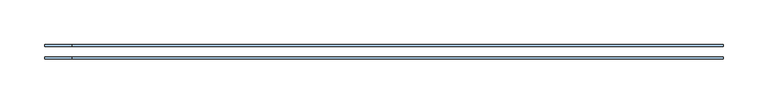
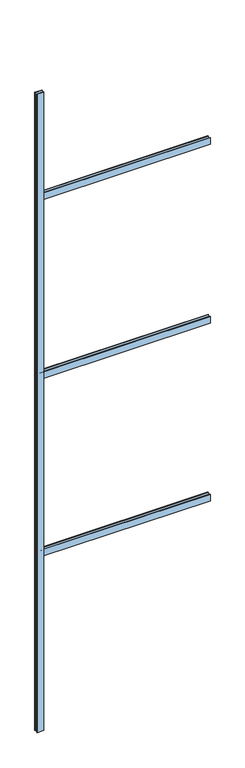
"""IFC4 building model written with IfcOpenShell, lengths in millimetres: window geometry, 32_IM_CF_verdeling_roedes : 32_IM_CF_verdeling_roedes_1x4."""

from ifc_helpers import new_model, si_unit, frame, origin, origin_with_axes, place, context, project, spatial, polyline, outline, extrude, source, transform, mapped, element, save


def window_64f03e5b(model_context):
    return source(origin(), model_context, "Body", "SweptSolid", [
        extrude(outline(polyline([(-356.0, -6.0), (-356.0, -8.0), (-386.0, -8.0), (-386.0, -6.0), (-356.0, -6.0)])), origin_with_axes(), (0.0, 0.0, 1.0), 2945.0),
        extrude(outline(polyline([(-386.0, 8.0), (-356.0, 8.0), (-356.0, 6.0), (-386.0, 6.0), (-386.0, 8.0)])), origin_with_axes(), (0.0, 0.0, 1.0), 2945.0),
        extrude(outline(polyline([(371.0, -8.0), (-371.0, -8.0), (-371.0, -6.0), (371.0, -6.0), (371.0, -8.0)])), frame((0.0, 0.0, 805.0), z_axis=(0.0, 0.0, 1.0), x_axis=(1.0, 0.0, 0.0)), (0.0, 0.0, 1.0), 30.0),
        extrude(outline(polyline([(371.0, 6.0), (-371.0, 6.0), (-371.0, 8.0), (371.0, 8.0), (371.0, 6.0)])), frame((0.0, 0.0, 805.0), z_axis=(0.0, 0.0, 1.0), x_axis=(1.0, 0.0, 0.0)), (0.0, 0.0, 1.0), 30.0),
        extrude(outline(polyline([(371.0, -8.0), (-371.0, -8.0), (-371.0, -6.0), (371.0, -6.0), (371.0, -8.0)])), frame((0.0, 0.0, 2450.0), z_axis=(0.0, 0.0, 1.0), x_axis=(1.0, 0.0, 0.0)), (0.0, 0.0, 1.0), 30.0),
        extrude(outline(polyline([(371.0, 6.0), (-371.0, 6.0), (-371.0, 8.0), (371.0, 8.0), (371.0, 6.0)])), frame((0.0, 0.0, 2450.0), z_axis=(0.0, 0.0, 1.0), x_axis=(1.0, 0.0, 0.0)), (0.0, 0.0, 1.0), 30.0),
        extrude(outline(polyline([(371.0, -8.0), (-371.0, -8.0), (-371.0, -6.0), (371.0, -6.0), (371.0, -8.0)])), frame((0.0, 0.0, 1625.0), z_axis=(0.0, 0.0, 1.0), x_axis=(1.0, 0.0, 0.0)), (0.0, 0.0, 1.0), 30.0),
        extrude(outline(polyline([(371.0, 6.0), (-371.0, 6.0), (-371.0, 8.0), (371.0, 8.0), (371.0, 6.0)])), frame((0.0, 0.0, 1625.0), z_axis=(0.0, 0.0, 1.0), x_axis=(1.0, 0.0, 0.0)), (0.0, 0.0, 1.0), 30.0),
    ])


if __name__ == "__main__":
    model = new_model("IFC4")
    model_context = context("Model", 3, world=origin())
    ifc_project = project(units=[si_unit("LENGTHUNIT", "METRE", prefix="MILLI")], contexts=[model_context])
    site = spatial("IfcSite", under=ifc_project)
    building = spatial("IfcBuilding", under=site)
    placement = place(None, origin())
    window_shape = window_64f03e5b(model_context)
    element("IfcWindow", 1, ObjectType="32_IM_CF_verdeling_roedes : 32_IM_CF_verdeling_roedes_1x4", at=placement, inside=building, context=model_context, shape_type="MappedRepresentation", body=[
        mapped(window_shape, transform((0.0, 0.0, 0.0), x_axis=(1.0, 0.0, 0.0), y_axis=(0.0, 1.0, 0.0), z_axis=(0.0, 0.0, 1.0))),
    ])
    save(model, "model.ifc")
